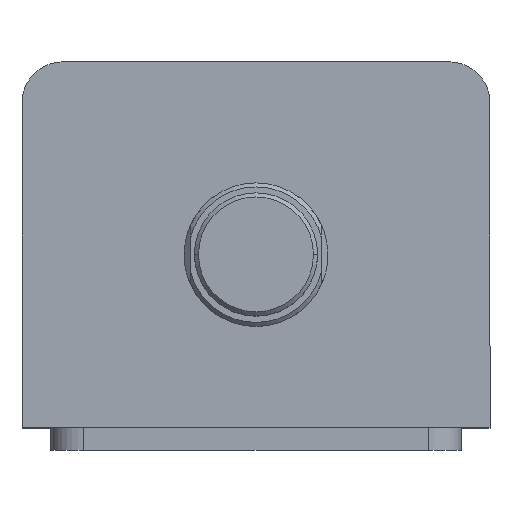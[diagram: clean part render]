
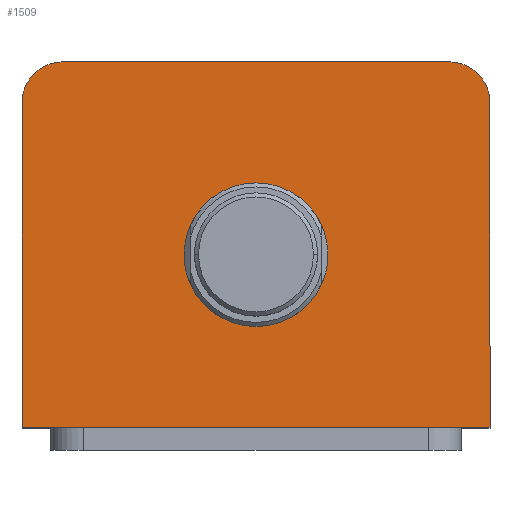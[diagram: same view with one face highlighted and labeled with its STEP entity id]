
A CAD part, top view. The second image highlights one B-rep face of the part: STEP entity #1509.
In plain terms, the highlighted planar face has unit normal (0, 0, 1).
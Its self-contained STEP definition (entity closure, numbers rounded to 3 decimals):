
#330 = CARTESIAN_POINT ( 'NONE',  ( 57., 44.5, 147. ) ) ;
#331 = DIRECTION ( 'NONE',  ( 0., 1., 0. ) ) ;
#1289 = CARTESIAN_POINT ( 'NONE',  ( -57., 44.5, 147. ) ) ;
#1290 = DIRECTION ( 'NONE',  ( -1., 0., 0. ) ) ;
#1291 = CARTESIAN_POINT ( 'NONE',  ( 0., -2.5, 147. ) ) ;
#1292 = DIRECTION ( 'NONE',  ( 0., 0., 1. ) ) ;
#1293 = DIRECTION ( 'NONE',  ( 1., 0., 0. ) ) ;
#1296 = CARTESIAN_POINT ( 'NONE',  ( 0., -2.5, 147. ) ) ;
#1297 = DIRECTION ( 'NONE',  ( 0., 0., 1. ) ) ;
#1298 = DIRECTION ( 'NONE',  ( 1., 0., 0. ) ) ;
#1343 = CARTESIAN_POINT ( 'NONE',  ( 47., 34.5, 147. ) ) ;
#1344 = DIRECTION ( 'NONE',  ( 0., 0., 1. ) ) ;
#1345 = DIRECTION ( 'NONE',  ( 1., 0., 0. ) ) ;
#1509 = ADVANCED_FACE ( 'NONE', ( #3150, #3157 ), #2199, .T. ) ;
#1661 = CARTESIAN_POINT ( 'NONE',  ( -57., -44.5, 147. ) ) ;
#1662 = DIRECTION ( 'NONE',  ( 1., 0., 0. ) ) ;
#1678 = CARTESIAN_POINT ( 'NONE',  ( -47., 34.5, 147. ) ) ;
#1679 = DIRECTION ( 'NONE',  ( 0., 0., 1. ) ) ;
#1680 = DIRECTION ( 'NONE',  ( 1., 0., 0. ) ) ;
#1688 = CARTESIAN_POINT ( 'NONE',  ( -57., 44.5, 147. ) ) ;
#1689 = DIRECTION ( 'NONE',  ( 0., -1., 0. ) ) ;
#1818 = VERTEX_POINT ( 'NONE', #1995 ) ;
#1819 = VERTEX_POINT ( 'NONE', #1996 ) ;
#1820 = VERTEX_POINT ( 'NONE', #1997 ) ;
#1822 = VERTEX_POINT ( 'NONE', #1999 ) ;
#1839 = VERTEX_POINT ( 'NONE', #2015 ) ;
#1852 = VERTEX_POINT ( 'NONE', #2027 ) ;
#1855 = VERTEX_POINT ( 'NONE', #2030 ) ;
#1863 = VERTEX_POINT ( 'NONE', #2038 ) ;
#1995 = CARTESIAN_POINT ( 'NONE',  ( -17.5, -2.5, 147. ) ) ;
#1996 = CARTESIAN_POINT ( 'NONE',  ( -57., -44.5, 147. ) ) ;
#1997 = CARTESIAN_POINT ( 'NONE',  ( 17.5, -2.5, 147. ) ) ;
#1999 = CARTESIAN_POINT ( 'NONE',  ( 57., -44.5, 147. ) ) ;
#2015 = CARTESIAN_POINT ( 'NONE',  ( 57., 34.5, 147. ) ) ;
#2027 = CARTESIAN_POINT ( 'NONE',  ( 47., 44.5, 147. ) ) ;
#2030 = CARTESIAN_POINT ( 'NONE',  ( -47., 44.5, 147. ) ) ;
#2038 = CARTESIAN_POINT ( 'NONE',  ( -57., 34.5, 147. ) ) ;
#2199 = PLANE ( 'NONE',  #3604 ) ;
#2202 = CARTESIAN_POINT ( 'NONE',  ( 0., 0., 147. ) ) ;
#2208 = DIRECTION ( 'NONE',  ( 0., 0., 1. ) ) ;
#2209 = DIRECTION ( 'NONE',  ( 1., 0., 0. ) ) ;
#2368 = ORIENTED_EDGE ( 'NONE', *, *, #3699, .F. ) ;
#2369 = ORIENTED_EDGE ( 'NONE', *, *, #3697, .F. ) ;
#2370 = ORIENTED_EDGE ( 'NONE', *, *, #3700, .T. ) ;
#2371 = ORIENTED_EDGE ( 'NONE', *, *, #3730, .T. ) ;
#2372 = ORIENTED_EDGE ( 'NONE', *, *, #3734, .T. ) ;
#2373 = ORIENTED_EDGE ( 'NONE', *, *, #3726, .T. ) ;
#2374 = ORIENTED_EDGE ( 'NONE', *, *, #3782, .T. ) ;
#2375 = ORIENTED_EDGE ( 'NONE', *, *, #3717, .T. ) ;
#2739 = EDGE_LOOP ( 'NONE', ( #2370, #2371, #2372, #2373, #2374, #2375 ) ) ;
#2777 = EDGE_LOOP ( 'NONE', ( #2368, #2369 ) ) ;
#3150 = FACE_BOUND ( 'NONE', #2777, .T. ) ;
#3157 = FACE_OUTER_BOUND ( 'NONE', #2739, .T. ) ;
#3206 = CIRCLE ( 'NONE', #3581, 17.5 ) ;
#3209 = CIRCLE ( 'NONE', #3580, 17.5 ) ;
#3211 = LINE ( 'NONE', #1289, #3213 ) ;
#3213 = VECTOR ( 'NONE', #1290, 1000. ) ;
#3232 = CIRCLE ( 'NONE', #3568, 10. ) ;
#3246 = LINE ( 'NONE', #1661, #3248 ) ;
#3248 = VECTOR ( 'NONE', #1662, 1000. ) ;
#3252 = CIRCLE ( 'NONE', #3561, 10. ) ;
#3258 = LINE ( 'NONE', #1688, #3261 ) ;
#3261 = VECTOR ( 'NONE', #1689, 1000. ) ;
#3346 = LINE ( 'NONE', #330, #3349 ) ;
#3349 = VECTOR ( 'NONE', #331, 1000. ) ;
#3561 = AXIS2_PLACEMENT_3D ( 'NONE', #1678, #1679, #1680 ) ;
#3568 = AXIS2_PLACEMENT_3D ( 'NONE', #1343, #1344, #1345 ) ;
#3580 = AXIS2_PLACEMENT_3D ( 'NONE', #1296, #1297, #1298 ) ;
#3581 = AXIS2_PLACEMENT_3D ( 'NONE', #1291, #1292, #1293 ) ;
#3604 = AXIS2_PLACEMENT_3D ( 'NONE', #2202, #2208, #2209 ) ;
#3697 = EDGE_CURVE ( 'NONE', #1818, #1820, #3206, .T. ) ;
#3699 = EDGE_CURVE ( 'NONE', #1820, #1818, #3209, .T. ) ;
#3700 = EDGE_CURVE ( 'NONE', #1852, #1855, #3211, .T. ) ;
#3717 = EDGE_CURVE ( 'NONE', #1839, #1852, #3232, .T. ) ;
#3726 = EDGE_CURVE ( 'NONE', #1819, #1822, #3246, .T. ) ;
#3730 = EDGE_CURVE ( 'NONE', #1855, #1863, #3252, .T. ) ;
#3734 = EDGE_CURVE ( 'NONE', #1863, #1819, #3258, .T. ) ;
#3782 = EDGE_CURVE ( 'NONE', #1822, #1839, #3346, .T. ) ;
